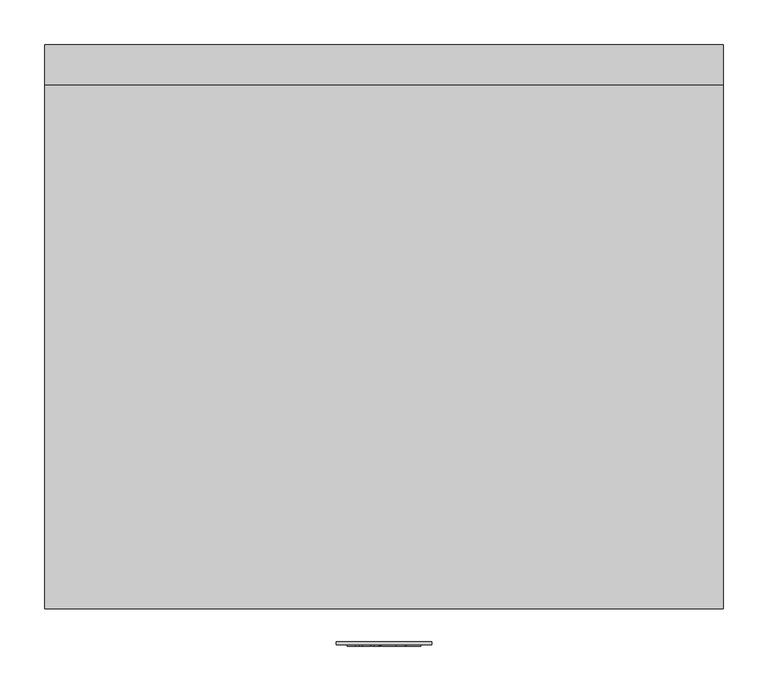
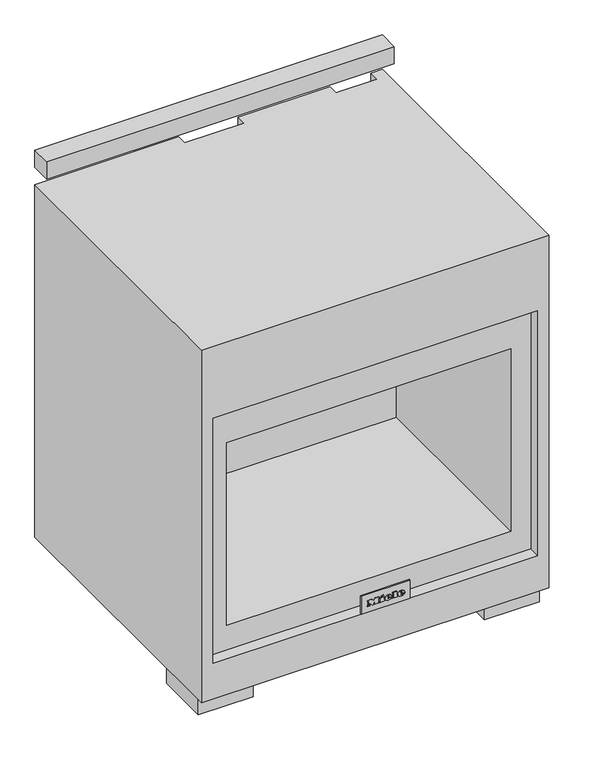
"""IFC4 building model written with IfcOpenShell, lengths in millimetres: proxy geometry, 11791560_USA_HR1924-3LP_EDST-CLS : 25192482_USA_11791560_HR1924-3LP_EDST-CLS."""

from ifc_helpers import new_model, si_unit, point, frame, frame_2d, origin, origin_with_axes, place, context, project, spatial, polyline, circle_curve, ellipse_curve, trimmed, segment, composite_curve, outline, extrude, faceted_brep, source, transform, mapped, element, save
from ifc_brep_helpers import plane_surface, cylinder_surface, revolved_surface, extruded_surface, advanced_brep


def specialty_equipment_53138e3b(model_context):
    return source(origin(), model_context, "Body", "SolidModel", [
        extrude(outline(composite_curve([segment(polyline([(-311.4581842, -37.6489066), (-310.202206, -37.8031213), (-311.1593436, -39.5606642)]), True, "CONTINUOUS"), segment(trimmed(circle_curve(frame_2d((-313.3057471, -36.6354063)), 3.6282478), [point((-311.1593436, -39.5606642))], [point((-314.8962663, -39.8964538))], False, "CARTESIAN"), True, "CONTINUOUS"), segment(trimmed(circle_curve(frame_2d((-313.7731504, -37.593725)), 2.5620205), [point((-314.8962663, -39.8964538))], [point((-316.32893, -37.7724425))], False, "CARTESIAN"), True, "CONTINUOUS"), segment(trimmed(circle_curve(frame_2d((-314.617737, -37.6527843)), 1.7153715), [point((-316.32893, -37.7724425))], [point((-315.147816, -36.021369))], False, "CARTESIAN"), True, "CONTINUOUS"), segment(polyline([(-315.147816, -36.021369), (-313.3069947, -35.4232499), (-311.987673, -33.9770867)]), True, "CONTINUOUS"), segment(trimmed(circle_curve(frame_2d((-313.1408399, -36.351197)), 2.6393548), [point((-311.987673, -33.9770867))], [point((-314.2940069, -33.9770867))], True, "CARTESIAN"), True, "CONTINUOUS"), segment(polyline([(-314.2940069, -33.9770867), (-314.7553884, -34.6611129), (-316.0084996, -34.5072502), (-315.5756304, -33.3795875)]), True, "CONTINUOUS"), segment(trimmed(circle_curve(frame_2d((-312.9527143, -36.6576461)), 4.1982564), [point((-315.5756304, -33.3795875))], [point((-313.0505395, -32.4605295))], False, "CARTESIAN"), True, "CONTINUOUS"), segment(trimmed(circle_curve(frame_2d((-312.9805679, -35.4626064)), 3.0028922), [point((-313.0505395, -32.4605295))], [point((-310.5718203, -33.6694816))], False, "CARTESIAN"), True, "CONTINUOUS"), segment(trimmed(circle_curve(frame_2d((-312.4380028, -34.5301363)), 2.0550823), [point((-310.5718203, -33.6694816))], [point((-311.4341096, -36.323335))], False, "CARTESIAN"), True, "CONTINUOUS"), segment(polyline([(-311.4341096, -36.323335), (-313.3494535, -36.9828408), (-315.0597255, -37.9076387), (-314.6768706, -38.6156702)]), True, "CONTINUOUS"), segment(trimmed(circle_curve(frame_2d((-313.3695779, -35.6018954)), 3.2850956), [point((-314.6768706, -38.6156702))], [point((-312.0622852, -38.6156702))], True, "CARTESIAN"), True, "CONTINUOUS"), segment(polyline([(-312.0622852, -38.6156702), (-311.4581842, -37.6489066)]), True, "CONTINUOUS")], self_intersect=False)), frame((0.0, 0.0, 753.0), z_axis=(0.0, 0.0, 1.0), x_axis=(1.0, 0.0, 0.0)), (0.0, 0.0, 1.0), 1.0),
        extrude(outline(composite_curve([segment(polyline([(-301.0941465, -34.8216074), (-297.0193946, -34.8216074), (-297.0193946, -36.0727848), (-299.8300756, -36.0727848), (-299.8300756, -37.8953779), (-298.5547934, -38.5734575), (-296.8554891, -38.8730907)]), True, "CONTINUOUS"), segment(trimmed(circle_curve(frame_2d((-296.7763582, -35.1835188)), 3.6904203), [point((-296.8554891, -38.8730907))], [point((-293.0917956, -34.975672))], True, "CARTESIAN"), True, "CONTINUOUS"), segment(trimmed(circle_curve(frame_2d((-297.2742118, -35.2116028)), 4.1890654), [point((-293.0917956, -34.975672))], [point((-296.8924604, -31.0399683))], True, "CARTESIAN"), True, "CONTINUOUS"), segment(trimmed(circle_curve(frame_2d((-297.1434541, -33.7827322)), 2.7542243), [point((-296.8924604, -31.0399683))], [point((-299.2311401, -31.9862582))], True, "CARTESIAN"), True, "CONTINUOUS"), segment(polyline([(-299.2311401, -31.9862582), (-299.7913432, -33.1348449), (-300.9545959, -32.808521), (-300.2222817, -31.1459412)]), True, "CONTINUOUS"), segment(trimmed(circle_curve(frame_2d((-297.0056573, -34.3038983)), 4.5077007), [point((-300.2222817, -31.1459412))], [point((-296.8478593, -29.7989604))], False, "CARTESIAN"), True, "CONTINUOUS"), segment(trimmed(circle_curve(frame_2d((-297.0297107, -35.0029797)), 5.2071956), [point((-296.8478593, -29.7989604))], [point((-291.8225151, -35.0029797))], False, "CARTESIAN"), True, "CONTINUOUS"), segment(trimmed(circle_curve(frame_2d((-297.0187023, -34.9634409)), 5.1963376), [point((-291.8225151, -35.0029797))], [point((-297.0187023, -40.1597785))], False, "CARTESIAN"), True, "CONTINUOUS"), segment(polyline([(-297.0187023, -40.1597785), (-299.0821579, -39.7823822), (-301.0941465, -38.5734575), (-301.0941465, -34.8216074)]), True, "CONTINUOUS")], self_intersect=False)), frame((0.0, 0.0, 753.0), z_axis=(0.0, 0.0, 1.0), x_axis=(1.0, 0.0, 0.0)), (0.0, 0.0, 1.0), 1.0),
        extrude(outline(polyline([(-335.0, -65.0), (-270.0, -65.0), (-270.0, -73.0), (-335.0, -73.0), (-335.0, -65.0)])), frame((0.0, 0.0, 670.0), z_axis=(0.0, 0.0, 1.0), x_axis=(1.0, 0.0, 0.0)), (0.0, 0.0, 1.0), 114.0),
        faceted_brep([(356.0, -608.0, 695.0), (-356.0, -608.0, 695.0), (-356.0, -608.0, 128.0), (356.0, -608.0, 128.0), (312.0, -608.0, 608.0), (312.0, -608.0, 185.0), (-312.0, -608.0, 185.0), (-312.0, -608.0, 608.0), (356.0, -633.0, 128.0), (356.0, -633.0, 695.0), (-356.0, -633.0, 128.0), (-356.0, -633.0, 695.0), (-381.0, 0.0, 862.0), (-381.0, -633.0, 862.0), (381.0, -633.0, 862.0), (381.0, 0.0, 862.0), (356.0, 0.0, 862.0), (356.0, -23.0, 862.0), (266.0, -23.0, 862.0), (266.0, 0.0, 862.0), (65.0, 0.0, 862.0), (65.0, -23.0, 862.0), (-66.0, -23.0, 862.0), (-66.0, 0.0, 862.0), (381.0, 0.0, 45.0), (381.0, -633.0, 45.0), (-381.0, -633.0, 45.0), (-381.0, 0.0, 45.0), (-356.0, 0.0, 45.0), (-356.0, -75.0, 45.0), (356.0, -75.0, 45.0), (356.0, 0.0, 45.0), (266.0, 0.0, 132.0), (65.0, 0.0, 132.0), (-66.0, 0.0, 132.0), (-270.0, 0.0, 132.0), (-270.0, 0.0, 670.0), (-186.0, 0.0, 670.0), (-186.0, 0.0, 784.0), (-335.0, 0.0, 784.0), (-335.0, 0.0, 132.0), (-356.0, 0.0, 132.0), (312.0, -173.0, 608.0), (-312.0, -173.0, 608.0), (-312.0, -173.0, 185.0), (312.0, -173.0, 185.0), (-356.0, -75.0, 132.0), (356.0, -75.0, 132.0), (-335.0, -73.0, 132.0), (-270.0, -73.0, 132.0), (-66.0, -23.0, 132.0), (65.0, -23.0, 132.0), (266.0, -23.0, 132.0), (356.0, -23.0, 132.0), (-335.0, -73.0, 784.0), (-270.0, -73.0, 784.0), (-186.0, -65.0, 784.0), (-270.0, -65.0, 784.0), (-270.0, -65.0, 670.0), (-186.0, -65.0, 670.0)], [[[0, 1, 2, 3], [4, 5, 6, 7]], [[0, 3, 8, 9]], [[3, 2, 10, 8]], [[2, 1, 11, 10]], [[1, 0, 9, 11]], [[12, 13, 14, 15, 16, 17, 18, 19, 20, 21, 22, 23]], [[24, 25, 26, 27, 28, 29, 30, 31]], [[20, 19, 32, 33]], [[15, 24, 31, 16]], [[27, 12, 23, 34, 35, 36, 37, 38, 39, 40, 41, 28]], [[13, 12, 27, 26]], [[14, 13, 26, 25], [9, 8, 10, 11]], [[15, 14, 25, 24]], [[42, 43, 44, 45]], [[42, 45, 5, 4]], [[45, 44, 6, 5]], [[44, 43, 7, 6]], [[43, 42, 4, 7]], [[46, 47, 30, 29]], [[47, 46, 41, 40, 48, 49, 35, 34, 50, 51, 33, 32, 52, 53]], [[30, 47, 53, 17, 16, 31]], [[41, 46, 29, 28]], [[54, 55, 49, 48]], [[55, 54, 39, 38, 56, 57]], [[49, 55, 57, 58, 36, 35]], [[39, 54, 48, 40]], [[17, 53, 52, 18]], [[21, 51, 50, 22]], [[51, 21, 20, 33]], [[22, 50, 34, 23]], [[18, 52, 32, 19]], [[57, 56, 59, 58]], [[59, 56, 38, 37]], [[58, 59, 37, 36]]]),
        extrude(outline(polyline([(246.4261097, -48.2846028), (239.1553153, -48.2846028), (239.1553153, -47.0259878), (245.1324687, -47.0259878), (245.1324687, -44.0398896), (239.4699511, -44.0398896), (239.4699511, -42.7868997), (245.1324687, -42.7868997), (245.1324687, -39.484481), (239.0234692, -39.484481), (239.0234692, -38.223126), (246.4261097, -38.223126), (246.4261097, -48.2846028)])), frame((0.0, 0.0, 101.0), z_axis=(0.0, 0.0, 1.0), x_axis=(1.0, 0.0, 0.0)), (0.0, 0.0, 1.0), 1.0),
        extrude(outline(polyline([(237.0939455, -48.2781045), (230.9083542, -48.2781045), (230.9083542, -47.0259878), (235.9083542, -47.0259878), (235.9083542, -38.223126), (237.0939455, -38.223126), (237.0939455, -48.2781045)])), frame((0.0, 0.0, 101.0), z_axis=(0.0, 0.0, 1.0), x_axis=(1.0, 0.0, 0.0)), (0.0, 0.0, 1.0), 1.0),
        extrude(outline(composite_curve([segment(trimmed(circle_curve(frame_2d((239.0, -44.0)), 7.5), [point((239.0, -51.5))], [point((239.0, -36.5))], False, "CARTESIAN"), True, "CONTINUOUS"), segment(trimmed(circle_curve(frame_2d((239.0, -44.0)), 7.5), [point((239.0, -36.5))], [point((239.0, -51.5))], False, "CARTESIAN"), True, "CONTINUOUS")], self_intersect=False)), frame((0.0, 0.0, 102.0), z_axis=(0.0, 0.0, 1.0), x_axis=(1.0, 0.0, 0.0)), (0.0, 0.0, 1.0), 30.0),
        extrude(outline(composite_curve([segment(trimmed(circle_curve(frame_2d((-304.0, -35.0)), 7.5), [point((-311.5, -35.0))], [point((-296.5, -35.0))], False, "CARTESIAN"), True, "CONTINUOUS"), segment(trimmed(circle_curve(frame_2d((-304.0, -35.0)), 7.5), [point((-296.5, -35.0))], [point((-311.5, -35.0))], False, "CARTESIAN"), True, "CONTINUOUS")], self_intersect=False)), frame((0.0, 0.0, 754.0), z_axis=(0.0, 0.0, 1.0), x_axis=(1.0, 0.0, 0.0)), (0.0, 0.0, 1.0), 30.0),
        extrude(outline(polyline([(747.9900117, -230.5376107), (758.0405487, -227.8032463), (758.0405487, -229.1010309), (749.3952189, -231.1941056), (758.0411296, -233.6946617), (758.0411296, -235.5615338), (749.4117226, -238.0845612), (758.0419182, -240.165026), (758.0419182, -241.4626989), (747.9984871, -238.7244126), (747.9984871, -237.3735976), (756.8308623, -234.6286268), (747.9900117, -232.0716905), (747.9900117, -230.5376107)])), frame((0.0, -36.0, 0.0), z_axis=(0.0, 1.0, 0.0), x_axis=(0.0, 0.0, 1.0)), (0.0, 0.0, 1.0), 1.0),
        extrude(outline(polyline([(748.0, -219.4829639), (758.0509015, -219.4829639), (758.0509015, -220.7409127), (753.1386151, -220.7409127), (758.0475587, -225.8904554), (758.0475587, -227.6455728), (753.9164775, -223.3179994), (748.0, -227.8019347), (748.0, -226.2701694), (753.0664133, -222.4304743), (751.4465471, -220.7392234), (748.0, -220.7392234), (748.0, -219.4829639)])), frame((0.0, -36.0, 0.0), z_axis=(0.0, 1.0, 0.0), x_axis=(0.0, 0.0, 1.0)), (0.0, 0.0, 1.0), 1.0),
        extrude(outline(composite_curve([segment(trimmed(circle_curve(frame_2d((753.0, -230.0)), 7.5), [point((753.0, -222.5))], [point((753.0, -237.5))], False, "CARTESIAN"), True, "CONTINUOUS"), segment(trimmed(circle_curve(frame_2d((753.0, -230.0)), 7.5), [point((753.0, -237.5))], [point((753.0, -222.5))], False, "CARTESIAN"), True, "CONTINUOUS")], self_intersect=False)), frame((0.0, -66.0, 0.0), z_axis=(0.0, 1.0, 0.0), x_axis=(0.0, 0.0, 1.0)), (0.0, 0.0, 1.0), 30.0),
        extrude(outline(composite_curve([segment(trimmed(circle_curve(frame_2d((-152.0, 39.6862697)), 39.6862697), [point((-112.6710759, 45.0))], [point((-191.3289241, 45.0))], False, "CARTESIAN"), True, "CONTINUOUS"), segment(polyline([(-191.3289241, 45.0), (-112.6710759, 45.0)]), True, "CONTINUOUS")], self_intersect=False)), frame((-234.0, 0.0, 0.0), z_axis=(1.0, 0.0, 0.0), x_axis=(0.0, 1.0, 0.0)), (0.0, 0.0, 1.0), 28.0),
        extrude(outline(polyline([(-254.0, -489.0), (-254.0, -609.0), (-374.0, -609.0), (-374.0, -489.0), (-254.0, -489.0)])), origin_with_axes(), (0.0, 0.0, 1.0), 45.0),
        extrude(outline(polyline([(374.0, -489.0), (374.0, -609.0), (254.0, -609.0), (254.0, -489.0), (374.0, -489.0)])), origin_with_axes(), (0.0, 0.0, 1.0), 45.0),
        advanced_brep(
        [(32.17, -675.0, 177.1995), (32.17, -675.0, 178.563), (41.2015, -675.0, 178.563), (25.4875, -675.0, 178.563), (29.2, -675.0, 174.0), (40.972, -675.0, 177.1995), (36.895, -675.0, 177.1995), (33.682, -675.0, 175.6875), (32.17, -675.0, 180.291), (32.17, -675.0, 181.7625), (34.4785, -675.0, 181.7625), (34.4785, -675.0, 180.291), (32.17, -674.0, 177.1995), (33.682, -674.0, 175.6875), (36.895, -674.0, 177.1995), (40.972, -674.0, 177.1995), (29.2, -674.0, 174.0), (25.4875, -674.0, 178.563), (41.2015, -674.0, 178.563), (32.17, -674.0, 178.563), (32.17, -674.0, 180.291), (34.4785, -674.0, 180.291), (34.4785, -674.0, 181.7625), (32.17, -674.0, 181.7625)],
        [
            (0, 1),
            (1, 2),
            (2, 3, ellipse_curve(frame((33.3445, -675.0, 178.563), z_axis=(0.0, -1.0, 0.0), x_axis=(-1.0, 0.0, 0.0)), 7.857, 6.4935)),
            (3, 4, circle_curve(frame((30.7120736, -675.0, 179.022), z_axis=(0.0, -1.0, 0.0), x_axis=(0.0, 0.0, -1.0)), 5.2446974)),
            (4, 5, circle_curve(frame((33.1872142, -675.0, 182.586), z_axis=(0.0, -1.0, 0.0), x_axis=(0.0, 0.0, -1.0)), 9.46664)),
            (5, 6),
            (6, 7, circle_curve(frame((34.3419118, -675.0, 178.455), z_axis=(0.0, 1.0, 0.0), x_axis=(0.0, 0.0, -1.0)), 2.8450905)),
            (7, 0, circle_curve(frame((33.682, -675.0, 177.1995), z_axis=(0.0, 1.0, 0.0), x_axis=(0.0, 0.0, -1.0)), 1.512)),
            (8, 9),
            (9, 10, circle_curve(frame((33.32425, -675.0, 181.7625), z_axis=(0.0, 1.0, 0.0), x_axis=(0.0, 0.0, -1.0)), 1.15425)),
            (10, 11),
            (11, 8),
            (12, 13, circle_curve(frame((33.682, -674.0, 177.1995), z_axis=(0.0, -1.0, 0.0), x_axis=(0.0, 0.0, -1.0)), 1.512)),
            (13, 14, circle_curve(frame((34.3419118, -674.0, 178.455), z_axis=(0.0, -1.0, 0.0), x_axis=(0.0, 0.0, -1.0)), 2.8450905)),
            (14, 15),
            (15, 16, circle_curve(frame((33.1872142, -674.0, 182.586), z_axis=(0.0, 1.0, 0.0), x_axis=(0.0, 0.0, -1.0)), 9.46664)),
            (16, 17, circle_curve(frame((30.7120736, -674.0, 179.022), z_axis=(0.0, 1.0, 0.0), x_axis=(0.0, 0.0, -1.0)), 5.2446974)),
            (17, 18, ellipse_curve(frame((33.3445, -674.0, 178.563), z_axis=(0.0, 1.0, 0.0), x_axis=(-1.0, 0.0, 0.0)), 7.857, 6.4935)),
            (18, 19),
            (19, 12),
            (20, 21),
            (21, 22),
            (22, 23, circle_curve(frame((33.32425, -674.0, 181.7625), z_axis=(0.0, -1.0, 0.0), x_axis=(0.0, 0.0, -1.0)), 1.15425)),
            (23, 20),
            (0, 12),
            (19, 1),
            (18, 2),
            (5, 15),
            (14, 6),
            (17, 3),
            (13, 7),
            (16, 4),
            (8, 20),
            (23, 9),
            (22, 10),
            (21, 11),
        ],
        [
            plane_surface(frame((32.17, -675.0, 178.563), z_axis=(0.0, -1.0, 0.0), x_axis=(0.0, 0.0, 1.0))),
            plane_surface(frame((32.17, -674.0, 178.563), z_axis=(0.0, 1.0, 0.0), x_axis=(0.0, 0.0, -1.0))),
            plane_surface(frame((32.17, -675.0, 177.1995), z_axis=(1.0, 0.0, 0.0), x_axis=(0.0, 1.0, 0.0))),
            plane_surface(frame((32.17, -675.0, 178.563), z_axis=(0.0, 0.0, -1.0), x_axis=(0.0, 1.0, 0.0))),
            plane_surface(frame((40.972, -675.0, 177.1995), z_axis=(0.0, 0.0, 1.0), x_axis=(0.0, 1.0, 0.0))),
            extruded_surface(trimmed(ellipse_curve(frame((33.3445, -673.0, 178.563), z_axis=(0.0, -1.0, 0.0), x_axis=(-1.0, 0.0, 0.0)), 7.857, 6.4935), [point((41.2015, -673.0, 178.563))], [point((25.4875, -673.0, 178.563))], True, "CARTESIAN"), (0.0, -1.0, 0.0), 1.0),
            revolved_surface(polyline([(34.3419118, -674.0, 175.60990950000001), (34.3419118, -675.0, 175.60990950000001)]), (34.3419118, -674.0, 178.455), (0.0, 1.0, 0.0)),
            revolved_surface(polyline([(33.682, -674.0, 175.6875), (33.682, -675.0, 175.6875)]), (33.682, -674.0, 177.1995), (0.0, 1.0, 0.0)),
            cylinder_surface(frame((30.7120736, -674.0, 179.022), z_axis=(0.0, -1.0, 0.0), x_axis=(0.0, 0.0, -1.0)), 5.2446974),
            cylinder_surface(frame((33.1872142, -674.0, 182.586), z_axis=(0.0, -1.0, 0.0), x_axis=(0.0, 0.0, -1.0)), 9.46664),
            plane_surface(frame((32.17, -675.0, 180.291), z_axis=(1.0, 0.0, 0.0), x_axis=(0.0, 1.0, 0.0))),
            revolved_surface(polyline([(33.32425, -674.0, 180.60825), (33.32425, -675.0, 180.60825)]), (33.32425, -674.0, 181.7625), (0.0, 1.0, 0.0)),
            plane_surface(frame((34.4785, -675.0, 181.7625), z_axis=(-1.0, 0.0, 0.0), x_axis=(0.0, 1.0, 0.0))),
            plane_surface(frame((34.4785, -675.0, 180.291), z_axis=(0.0, 0.0, 1.0), x_axis=(0.0, 1.0, 0.0))),
        ],
        [
            (0, [[1, 2, 3, 4, 5, 6, 7, 8], [9, 10, 11, 12]]),
            (1, [[13, 14, 15, 16, 17, 18, 19, 20], [21, 22, 23, 24]]),
            (2, [[-1, 25, -20, 26]]),
            (3, [[-2, -26, -19, 27]]),
            (4, [[-6, 28, -15, 29]]),
            (5, [[-3, -27, -18, 30]]),
            (6, [[-7, -29, -14, 31]]),
            (7, [[-8, -31, -13, -25]]),
            (8, [[-4, -30, -17, 32]]),
            (9, [[-5, -32, -16, -28]]),
            (10, [[-9, 33, -24, 34]]),
            (11, [[-10, -34, -23, 35]]),
            (12, [[-11, -35, -22, 36]]),
            (13, [[-12, -36, -21, -33]]),
        ],
    ),
        advanced_brep(
        [(3.9955, -675.0, 177.1995), (3.9955, -675.0, 178.563), (13.027, -675.0, 178.563), (-2.687, -675.0, 178.563), (1.0255, -675.0, 174.0), (12.7975, -675.0, 177.1995), (8.7205, -675.0, 177.1995), (5.5075, -675.0, 175.6875), (3.9955, -675.0, 180.291), (3.9955, -675.0, 181.7625), (6.304, -675.0, 181.7625), (6.304, -675.0, 180.291), (3.9955, -674.0, 177.1995), (5.5075, -674.0, 175.6875), (8.7205, -674.0, 177.1995), (12.7975, -674.0, 177.1995), (1.0255, -674.0, 174.0), (-2.687, -674.0, 178.563), (13.027, -674.0, 178.563), (3.9955, -674.0, 178.563), (3.9955, -674.0, 180.291), (6.304, -674.0, 180.291), (6.304, -674.0, 181.7625), (3.9955, -674.0, 181.7625)],
        [
            (0, 1),
            (1, 2),
            (2, 3, ellipse_curve(frame((5.17, -675.0, 178.563), z_axis=(0.0, -1.0, 0.0), x_axis=(-1.0, 0.0, 0.0)), 7.857, 6.4935)),
            (3, 4, circle_curve(frame((2.5375736, -675.0, 179.022), z_axis=(0.0, -1.0, 0.0), x_axis=(0.0, 0.0, -1.0)), 5.2446974)),
            (4, 5, circle_curve(frame((5.0127142, -675.0, 182.586), z_axis=(0.0, -1.0, 0.0), x_axis=(0.0, 0.0, -1.0)), 9.46664)),
            (5, 6),
            (6, 7, circle_curve(frame((6.1674118, -675.0, 178.455), z_axis=(0.0, 1.0, 0.0), x_axis=(0.0, 0.0, -1.0)), 2.8450905)),
            (7, 0, circle_curve(frame((5.5075, -675.0, 177.1995), z_axis=(0.0, 1.0, 0.0), x_axis=(0.0, 0.0, -1.0)), 1.512)),
            (8, 9),
            (9, 10, circle_curve(frame((5.14975, -675.0, 181.7625), z_axis=(0.0, 1.0, 0.0), x_axis=(0.0, 0.0, -1.0)), 1.15425)),
            (10, 11),
            (11, 8),
            (12, 13, circle_curve(frame((5.5075, -674.0, 177.1995), z_axis=(0.0, -1.0, 0.0), x_axis=(0.0, 0.0, -1.0)), 1.512)),
            (13, 14, circle_curve(frame((6.1674118, -674.0, 178.455), z_axis=(0.0, -1.0, 0.0), x_axis=(0.0, 0.0, -1.0)), 2.8450905)),
            (14, 15),
            (15, 16, circle_curve(frame((5.0127142, -674.0, 182.586), z_axis=(0.0, 1.0, 0.0), x_axis=(0.0, 0.0, -1.0)), 9.46664)),
            (16, 17, circle_curve(frame((2.5375736, -674.0, 179.022), z_axis=(0.0, 1.0, 0.0), x_axis=(0.0, 0.0, -1.0)), 5.2446974)),
            (17, 18, ellipse_curve(frame((5.17, -674.0, 178.563), z_axis=(0.0, 1.0, 0.0), x_axis=(-1.0, 0.0, 0.0)), 7.857, 6.4935)),
            (18, 19),
            (19, 12),
            (20, 21),
            (21, 22),
            (22, 23, circle_curve(frame((5.14975, -674.0, 181.7625), z_axis=(0.0, -1.0, 0.0), x_axis=(0.0, 0.0, -1.0)), 1.15425)),
            (23, 20),
            (0, 12),
            (19, 1),
            (18, 2),
            (5, 15),
            (14, 6),
            (17, 3),
            (13, 7),
            (16, 4),
            (8, 20),
            (23, 9),
            (22, 10),
            (21, 11),
        ],
        [
            plane_surface(frame((3.9955, -675.0, 178.563), z_axis=(0.0, -1.0, 0.0), x_axis=(0.0, 0.0, 1.0))),
            plane_surface(frame((3.9955, -674.0, 178.563), z_axis=(0.0, 1.0, 0.0), x_axis=(0.0, 0.0, -1.0))),
            plane_surface(frame((3.9955, -675.0, 177.1995), z_axis=(1.0, 0.0, 0.0), x_axis=(0.0, 1.0, 0.0))),
            plane_surface(frame((3.9955, -675.0, 178.563), z_axis=(0.0, 0.0, -1.0), x_axis=(0.0, 1.0, 0.0))),
            plane_surface(frame((12.7975, -675.0, 177.1995), z_axis=(0.0, 0.0, 1.0), x_axis=(0.0, 1.0, 0.0))),
            extruded_surface(trimmed(ellipse_curve(frame((5.17, -673.0, 178.563), z_axis=(0.0, -1.0, 0.0), x_axis=(-1.0, 0.0, 0.0)), 7.857, 6.4935), [point((13.027, -673.0, 178.563))], [point((-2.687, -673.0, 178.563))], True, "CARTESIAN"), (0.0, -1.0, 0.0), 1.0),
            revolved_surface(polyline([(6.1674118, -674.0, 175.60990950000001), (6.1674118, -675.0, 175.60990950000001)]), (6.1674118, -674.0, 178.455), (0.0, 1.0, 0.0)),
            revolved_surface(polyline([(5.5075, -674.0, 175.6875), (5.5075, -675.0, 175.6875)]), (5.5075, -674.0, 177.1995), (0.0, 1.0, 0.0)),
            cylinder_surface(frame((2.5375736, -674.0, 179.022), z_axis=(0.0, -1.0, 0.0), x_axis=(0.0, 0.0, -1.0)), 5.2446974),
            cylinder_surface(frame((5.0127142, -674.0, 182.586), z_axis=(0.0, -1.0, 0.0), x_axis=(0.0, 0.0, -1.0)), 9.46664),
            plane_surface(frame((3.9955, -675.0, 180.291), z_axis=(1.0, 0.0, 0.0), x_axis=(0.0, 1.0, 0.0))),
            revolved_surface(polyline([(5.14975, -674.0, 180.60825), (5.14975, -675.0, 180.60825)]), (5.14975, -674.0, 181.7625), (0.0, 1.0, 0.0)),
            plane_surface(frame((6.304, -675.0, 181.7625), z_axis=(-1.0, 0.0, 0.0), x_axis=(0.0, 1.0, 0.0))),
            plane_surface(frame((6.304, -675.0, 180.291), z_axis=(0.0, 0.0, 1.0), x_axis=(0.0, 1.0, 0.0))),
        ],
        [
            (0, [[1, 2, 3, 4, 5, 6, 7, 8], [9, 10, 11, 12]]),
            (1, [[13, 14, 15, 16, 17, 18, 19, 20], [21, 22, 23, 24]]),
            (2, [[-1, 25, -20, 26]]),
            (3, [[-2, -26, -19, 27]]),
            (4, [[-6, 28, -15, 29]]),
            (5, [[-3, -27, -18, 30]]),
            (6, [[-7, -29, -14, 31]]),
            (7, [[-8, -31, -13, -25]]),
            (8, [[-4, -30, -17, 32]]),
            (9, [[-5, -32, -16, -28]]),
            (10, [[-9, 33, -24, 34]]),
            (11, [[-10, -34, -23, 35]]),
            (12, [[-11, -35, -22, 36]]),
            (13, [[-12, -36, -21, -33]]),
        ],
    ),
        extrude(outline(polyline([(186.7035, -10.76), (184.5165, -9.734), (186.6495, -5.1575), (188.8365, -6.17), (186.7035, -10.76)])), frame((0.0, -675.0, 0.0), z_axis=(0.0, 1.0, 0.0), x_axis=(0.0, 0.0, 1.0)), (0.0, 0.0, 1.0), 1.0),
        extrude(outline(polyline([(184.2195, -14.0945), (181.803, -14.0945), (181.803, -12.488), (176.268, -12.488), (176.268, -14.0945), (174.0, -14.0945), (174.0, -3.443), (176.268, -3.443), (176.268, -5.009), (184.2195, -5.009), (184.2195, -14.0945)])), frame((0.0, -675.0, 0.0), z_axis=(0.0, 1.0, 0.0), x_axis=(0.0, 0.0, 1.0)), (0.0, 0.0, 1.0), 1.0),
        extrude(outline(polyline([(185.2995, 13.783), (185.2995, 15.403), (176.268, 15.403), (176.268, 13.783), (174.0, 13.783), (174.0, 24.7315), (176.268, 24.7315), (176.268, 23.071), (187.5, 23.071), (187.5, 13.783), (185.2995, 13.783)])), frame((0.0, -675.0, 0.0), z_axis=(0.0, 1.0, 0.0), x_axis=(0.0, 0.0, 1.0)), (0.0, 0.0, 1.0), 1.0),
        extrude(outline(polyline([(185.2995, -41.0), (185.2995, -39.3665), (176.268, -39.3665), (176.268, -41.0), (174.0, -41.0), (174.0, -35.06), (176.268, -35.06), (176.268, -36.68), (181.9756247, -36.68), (174.0, -30.6455), (182.2527223, -24.584), (176.268, -24.584), (176.268, -26.2445), (174.0, -26.2445), (174.0, -15.4715), (176.268, -15.4715), (176.268, -17.186), (185.2995, -17.186), (185.2995, -15.4715), (187.5, -15.4715), (187.5, -23.693), (182.4375, -27.635), (187.5, -31.5905), (187.5, -41.0), (185.2995, -41.0)])), frame((0.0, -675.0, 0.0), z_axis=(0.0, 1.0, 0.0), x_axis=(0.0, 0.0, 1.0)), (0.0, 0.0, 1.0), 1.0),
        extrude(outline(polyline([(381.0, 0.0), (381.0, -45.0), (-381.0, -45.0), (-381.0, 0.0), (381.0, 0.0)])), frame((0.0, 0.0, 902.0), z_axis=(0.0, 0.0, 1.0), x_axis=(1.0, 0.0, 0.0)), (0.0, 0.0, 1.0), 40.0),
        extrude(outline(composite_curve([segment(polyline([(-670.0, 160.0), (-673.5, 160.0)]), True, "CONTINUOUS"), segment(trimmed(circle_curve(frame_2d((-464.0137328, 180.5)), 210.4869263), [point((-673.5, 160.0))], [point((-673.5, 201.0))], False, "CARTESIAN"), True, "CONTINUOUS"), segment(polyline([(-673.5, 201.0), (-670.0, 201.0), (-670.0, 160.0)]), True, "CONTINUOUS")], self_intersect=False)), frame((-53.5, 0.0, 0.0), z_axis=(1.0, 0.0, 0.0), x_axis=(0.0, 1.0, 0.0)), (0.0, 0.0, 1.0), 107.0),
    ])


if __name__ == "__main__":
    model = new_model("IFC4")
    model_context = context("Model", 3, world=origin())
    ifc_project = project(units=[si_unit("LENGTHUNIT", "METRE", prefix="MILLI")], contexts=[model_context])
    site = spatial("IfcSite", under=ifc_project)
    building = spatial("IfcBuilding", under=site)
    placement = place(None, origin())
    specialty_equipment_shape = specialty_equipment_53138e3b(model_context)
    element("IfcBuildingElementProxy", 1, Name="11791560_USA_HR1924-3LP_EDST-CLS : 25192482_USA_11791560_HR1924-3LP_EDST-CLS", ObjectType="11791560_USA_HR1924-3LP_EDST-CLS : 25192482_USA_11791560_HR1924-3LP_EDST-CLS", at=placement, inside=building, context=model_context, shape_type="MappedRepresentation", body=[
        mapped(specialty_equipment_shape, transform((0.0, 0.0, 0.0), x_axis=(1.0, 0.0, 0.0), y_axis=(0.0, 1.0, 0.0), z_axis=(0.0, 0.0, 1.0))),
    ])
    save(model, "model.ifc")
